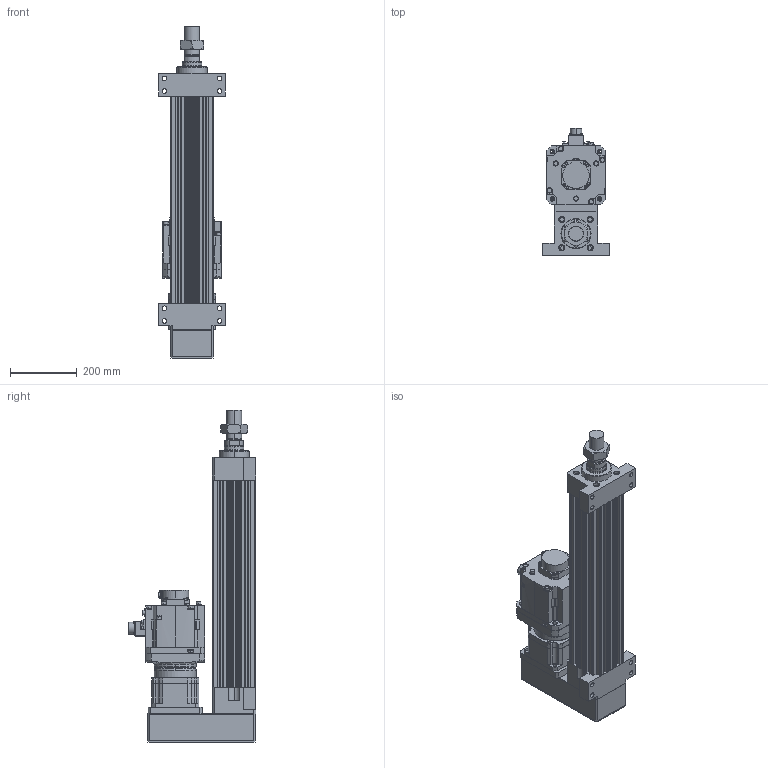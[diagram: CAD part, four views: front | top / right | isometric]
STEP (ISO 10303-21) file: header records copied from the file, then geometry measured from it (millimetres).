
FILE_DESCRIPTION (( 'STEP AP203' ), '1' );
FILE_NAME ('HES130NS(FS)(HS)-P400-W020G00-M-FFB.STEP', '2026-06-10T06:08:14', ( 'tms' ), ( '' ), 'SwSTEP 2.0', 'SolidWorks 2013', '' );
FILE_SCHEMA (( 'CONFIG_CONTROL_DESIGN' ));
Length unit declared in the file: millimetre
Products named in the file (9): HES130-P-G142; AB1423; HG-SR202B; AB1421; HES130-FFB-400; M45X1.5P; HES130NS(FS)(HS)-P400-W020G00-M-FFB; HES130-M-ROD-400; AB1422
Assembly tree (8 placements, depth 2):
  HES130NS(FS)(HS)-P400-W020G00-M-FFB
    HES130-FFB-400
    HES130-M-ROD-400
    M45X1.5P
    HES130-P-G142
    AB1421
    AB1422
    AB1423
    HG-SR202B
Bounding box: 200 x 381.85 x 994 mm (x, y, z)
Volume: 14360867.8 mm3; surface area: 1695572.5 mm2
Topology: 5 solids, 19 shells, 1495 faces, 3890 edges, 2530 vertices
Faces by surface type: cylinder 682, plane 587, cone 144, bspline 76, torus 6
Entity records: 54922 total; most frequent: CARTESIAN_POINT 16717, DIRECTION 7994, ORIENTED_EDGE 7706, EDGE_CURVE 3875, AXIS2_PLACEMENT_3D 3024, VERTEX_POINT 2530, VECTOR 1946, LINE 1946
